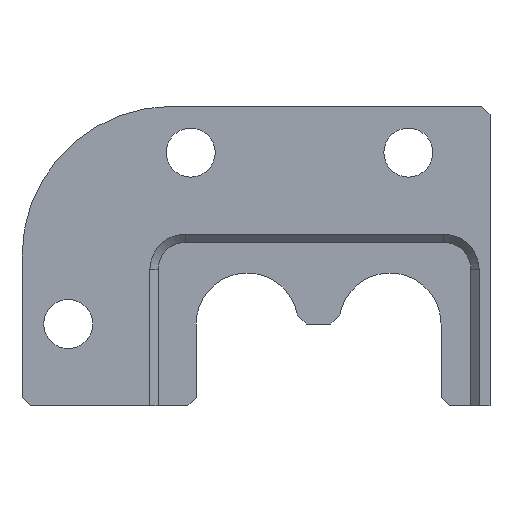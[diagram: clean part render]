
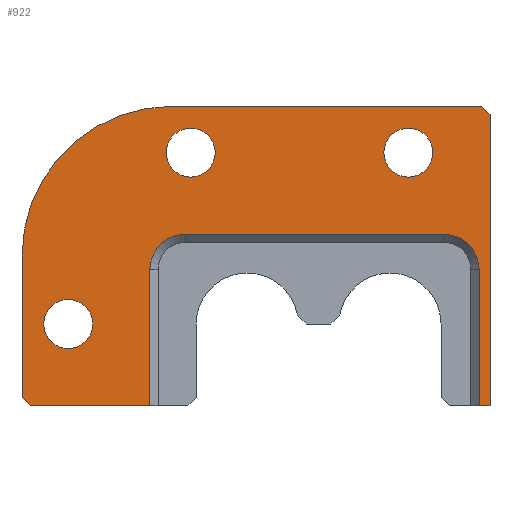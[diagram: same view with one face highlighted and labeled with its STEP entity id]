
A CAD part, front view. The second image highlights one B-rep face of the part: STEP entity #922.
In plain terms, the highlighted planar face has unit normal (0, -1, 0).
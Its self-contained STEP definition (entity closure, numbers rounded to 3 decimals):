
#2 = EDGE_CURVE ( 'NONE', #783, #450, #900, .T. ) ;
#5 = CIRCLE ( 'NONE', #814, 0.9 ) ;
#15 = EDGE_CURVE ( 'NONE', #456, #49, #803, .T. ) ;
#25 = DIRECTION ( 'NONE',  ( 0., 0., -1. ) ) ;
#29 = EDGE_LOOP ( 'NONE', ( #996 ) ) ;
#38 = CARTESIAN_POINT ( 'NONE',  ( 8.6, 0., -5.5 ) ) ;
#42 = FACE_BOUND ( 'NONE', #877, .T. ) ;
#44 = ORIENTED_EDGE ( 'NONE', *, *, #15, .F. ) ;
#49 = VERTEX_POINT ( 'NONE', #690 ) ;
#62 = DIRECTION ( 'NONE',  ( 1., 0., 0. ) ) ;
#68 = CARTESIAN_POINT ( 'NONE',  ( -8.6, 0., 5.5 ) ) ;
#70 = CARTESIAN_POINT ( 'NONE',  ( 8.2, 0., 0. ) ) ;
#73 = DIRECTION ( 'NONE',  ( 0., 0., 1. ) ) ;
#90 = LINE ( 'NONE', #332, #1139 ) ;
#98 = VECTOR ( 'NONE', #170, 1000. ) ;
#105 = DIRECTION ( 'NONE',  ( 0., 1., 0. ) ) ;
#122 = VERTEX_POINT ( 'NONE', #1109 ) ;
#123 = EDGE_CURVE ( 'NONE', #456, #126, #197, .T. ) ;
#124 = AXIS2_PLACEMENT_3D ( 'NONE', #654, #105, #335 ) ;
#125 = CIRCLE ( 'NONE', #353, 0.9 ) ;
#126 = VERTEX_POINT ( 'NONE', #1403 ) ;
#136 = EDGE_LOOP ( 'NONE', ( #862 ) ) ;
#139 = DIRECTION ( 'NONE',  ( 0., 1., 0. ) ) ;
#141 = VERTEX_POINT ( 'NONE', #680 ) ;
#156 = FACE_OUTER_BOUND ( 'NONE', #167, .T. ) ;
#167 = EDGE_LOOP ( 'NONE', ( #235, #1118, #1250, #1292, #770, #1312, #797, #44, #1082, #810, #1145, #1327, #735 ) ) ;
#170 = DIRECTION ( 'NONE',  ( 0.707, 0., -0.707 ) ) ;
#184 = EDGE_CURVE ( 'NONE', #870, #1078, #1051, .T. ) ;
#189 = LINE ( 'NONE', #756, #614 ) ;
#197 = LINE ( 'NONE', #280, #98 ) ;
#200 = AXIS2_PLACEMENT_3D ( 'NONE', #796, #1007, #471 ) ;
#235 = ORIENTED_EDGE ( 'NONE', *, *, #337, .T. ) ;
#244 = CARTESIAN_POINT ( 'NONE',  ( 8.6, 0., -5.5 ) ) ;
#272 = VERTEX_POINT ( 'NONE', #1415 ) ;
#280 = CARTESIAN_POINT ( 'NONE',  ( -8.6, 0., -5.2 ) ) ;
#287 = VECTOR ( 'NONE', #62, 1000. ) ;
#306 = EDGE_CURVE ( 'NONE', #1016, #126, #557, .T. ) ;
#314 = CARTESIAN_POINT ( 'NONE',  ( -8.6, 0., -5.5 ) ) ;
#324 = DIRECTION ( 'NONE',  ( 0., 1., 0. ) ) ;
#332 = CARTESIAN_POINT ( 'NONE',  ( 0., 0., 0.8 ) ) ;
#335 = DIRECTION ( 'NONE',  ( 0., 0., 1. ) ) ;
#337 = EDGE_CURVE ( 'NONE', #1121, #795, #1181, .T. ) ;
#350 = CARTESIAN_POINT ( 'NONE',  ( -8.6, 0., -5.5 ) ) ;
#353 = AXIS2_PLACEMENT_3D ( 'NONE', #542, #435, #1420 ) ;
#378 = EDGE_CURVE ( 'NONE', #783, #1078, #1422, .T. ) ;
#409 = EDGE_CURVE ( 'NONE', #122, #122, #5, .T. ) ;
#414 = DIRECTION ( 'NONE',  ( 0., 1., 0. ) ) ;
#433 = EDGE_CURVE ( 'NONE', #870, #49, #791, .T. ) ;
#435 = DIRECTION ( 'NONE',  ( 0., 1., 0. ) ) ;
#437 = CARTESIAN_POINT ( 'NONE',  ( 8.6, 0., 5.2 ) ) ;
#450 = VERTEX_POINT ( 'NONE', #244 ) ;
#456 = VERTEX_POINT ( 'NONE', #1236 ) ;
#459 = CARTESIAN_POINT ( 'NONE',  ( 8.6, 0., -5.5 ) ) ;
#466 = EDGE_CURVE ( 'NONE', #450, #711, #683, .T. ) ;
#471 = DIRECTION ( 'NONE',  ( 0., 0., 1. ) ) ;
#516 = AXIS2_PLACEMENT_3D ( 'NONE', #983, #414, #1173 ) ;
#542 = CARTESIAN_POINT ( 'NONE',  ( -2.4, 0., 3.8 ) ) ;
#557 = LINE ( 'NONE', #314, #629 ) ;
#566 = CARTESIAN_POINT ( 'NONE',  ( 5.6, 0., 4.7 ) ) ;
#570 = DIRECTION ( 'NONE',  ( 0., 0., 1. ) ) ;
#614 = VECTOR ( 'NONE', #73, 1000. ) ;
#629 = VECTOR ( 'NONE', #859, 1000. ) ;
#654 = CARTESIAN_POINT ( 'NONE',  ( 6.9, 0., -0.5 ) ) ;
#665 = VERTEX_POINT ( 'NONE', #566 ) ;
#668 = EDGE_CURVE ( 'NONE', #141, #141, #125, .T. ) ;
#670 = CARTESIAN_POINT ( 'NONE',  ( 8.2, 0., -0.5 ) ) ;
#673 = DIRECTION ( 'NONE',  ( 0., 1., 0. ) ) ;
#675 = VECTOR ( 'NONE', #1317, 1000. ) ;
#680 = CARTESIAN_POINT ( 'NONE',  ( -2.4, 0., 4.7 ) ) ;
#683 = LINE ( 'NONE', #38, #1045 ) ;
#690 = CARTESIAN_POINT ( 'NONE',  ( -8.6, 0., 0. ) ) ;
#703 = CARTESIAN_POINT ( 'NONE',  ( 6.9, 0., 0.8 ) ) ;
#711 = VERTEX_POINT ( 'NONE', #878 ) ;
#735 = ORIENTED_EDGE ( 'NONE', *, *, #1389, .T. ) ;
#756 = CARTESIAN_POINT ( 'NONE',  ( -3.9, 0., 0. ) ) ;
#770 = ORIENTED_EDGE ( 'NONE', *, *, #378, .T. ) ;
#783 = VERTEX_POINT ( 'NONE', #1124 ) ;
#791 = CIRCLE ( 'NONE', #200, 5.5 ) ;
#795 = VERTEX_POINT ( 'NONE', #670 ) ;
#796 = CARTESIAN_POINT ( 'NONE',  ( -3.1, 0., 0. ) ) ;
#797 = ORIENTED_EDGE ( 'NONE', *, *, #433, .T. ) ;
#803 = LINE ( 'NONE', #350, #837 ) ;
#809 = EDGE_CURVE ( 'NONE', #272, #845, #1255, .T. ) ;
#810 = ORIENTED_EDGE ( 'NONE', *, *, #306, .F. ) ;
#813 = CARTESIAN_POINT ( 'NONE',  ( 0., 0., 0. ) ) ;
#814 = AXIS2_PLACEMENT_3D ( 'NONE', #1359, #673, #1132 ) ;
#837 = VECTOR ( 'NONE', #570, 1000. ) ;
#845 = VERTEX_POINT ( 'NONE', #1119 ) ;
#859 = DIRECTION ( 'NONE',  ( -1., 0., 0. ) ) ;
#862 = ORIENTED_EDGE ( 'NONE', *, *, #1350, .T. ) ;
#870 = VERTEX_POINT ( 'NONE', #896 ) ;
#877 = EDGE_LOOP ( 'NONE', ( #1035 ) ) ;
#878 = CARTESIAN_POINT ( 'NONE',  ( 8.2, 0., -5.5 ) ) ;
#896 = CARTESIAN_POINT ( 'NONE',  ( -3.1, 0., 5.5 ) ) ;
#900 = LINE ( 'NONE', #459, #1276 ) ;
#910 = VECTOR ( 'NONE', #1286, 1000. ) ;
#911 = CIRCLE ( 'NONE', #516, 0.9 ) ;
#921 = PLANE ( 'NONE',  #1186 ) ;
#922 = ADVANCED_FACE ( 'NONE', ( #1030, #42, #1137, #156 ), #921, .F. ) ;
#928 = LINE ( 'NONE', #70, #910 ) ;
#983 = CARTESIAN_POINT ( 'NONE',  ( 5.6, 0., 3.8 ) ) ;
#996 = ORIENTED_EDGE ( 'NONE', *, *, #409, .T. ) ;
#1003 = CARTESIAN_POINT ( 'NONE',  ( -2.6, 0., -0.5 ) ) ;
#1005 = EDGE_CURVE ( 'NONE', #795, #711, #928, .T. ) ;
#1007 = DIRECTION ( 'NONE',  ( 0., -1., 0. ) ) ;
#1016 = VERTEX_POINT ( 'NONE', #1136 ) ;
#1026 = CARTESIAN_POINT ( 'NONE',  ( 8.3, 0., 5.5 ) ) ;
#1030 = FACE_BOUND ( 'NONE', #29, .T. ) ;
#1035 = ORIENTED_EDGE ( 'NONE', *, *, #668, .T. ) ;
#1045 = VECTOR ( 'NONE', #1122, 1000. ) ;
#1051 = LINE ( 'NONE', #68, #287 ) ;
#1078 = VERTEX_POINT ( 'NONE', #1026 ) ;
#1082 = ORIENTED_EDGE ( 'NONE', *, *, #123, .T. ) ;
#1086 = DIRECTION ( 'NONE',  ( 0., 0., 1. ) ) ;
#1108 = DIRECTION ( 'NONE',  ( 0., 0., 1. ) ) ;
#1109 = CARTESIAN_POINT ( 'NONE',  ( -6.9, 0., -1.6 ) ) ;
#1118 = ORIENTED_EDGE ( 'NONE', *, *, #1005, .T. ) ;
#1119 = CARTESIAN_POINT ( 'NONE',  ( -2.6, 0., 0.8 ) ) ;
#1121 = VERTEX_POINT ( 'NONE', #703 ) ;
#1122 = DIRECTION ( 'NONE',  ( -1., 0., 0. ) ) ;
#1124 = CARTESIAN_POINT ( 'NONE',  ( 8.6, 0., 5.2 ) ) ;
#1125 = DIRECTION ( 'NONE',  ( 1., 0., 0. ) ) ;
#1132 = DIRECTION ( 'NONE',  ( 0., 0., 1. ) ) ;
#1136 = CARTESIAN_POINT ( 'NONE',  ( -3.9, 0., -5.5 ) ) ;
#1137 = FACE_BOUND ( 'NONE', #136, .T. ) ;
#1139 = VECTOR ( 'NONE', #1125, 1000. ) ;
#1145 = ORIENTED_EDGE ( 'NONE', *, *, #1376, .T. ) ;
#1173 = DIRECTION ( 'NONE',  ( 0., 0., 1. ) ) ;
#1181 = CIRCLE ( 'NONE', #124, 1.3 ) ;
#1186 = AXIS2_PLACEMENT_3D ( 'NONE', #813, #324, #1086 ) ;
#1231 = AXIS2_PLACEMENT_3D ( 'NONE', #1003, #139, #1108 ) ;
#1236 = CARTESIAN_POINT ( 'NONE',  ( -8.6, 0., -5.2 ) ) ;
#1250 = ORIENTED_EDGE ( 'NONE', *, *, #466, .F. ) ;
#1255 = CIRCLE ( 'NONE', #1231, 1.3 ) ;
#1276 = VECTOR ( 'NONE', #25, 1000. ) ;
#1286 = DIRECTION ( 'NONE',  ( 0., 0., -1. ) ) ;
#1292 = ORIENTED_EDGE ( 'NONE', *, *, #2, .F. ) ;
#1312 = ORIENTED_EDGE ( 'NONE', *, *, #184, .F. ) ;
#1317 = DIRECTION ( 'NONE',  ( -0.707, 0., 0.707 ) ) ;
#1327 = ORIENTED_EDGE ( 'NONE', *, *, #809, .T. ) ;
#1350 = EDGE_CURVE ( 'NONE', #665, #665, #911, .T. ) ;
#1359 = CARTESIAN_POINT ( 'NONE',  ( -6.9, 0., -2.5 ) ) ;
#1376 = EDGE_CURVE ( 'NONE', #1016, #272, #189, .T. ) ;
#1389 = EDGE_CURVE ( 'NONE', #845, #1121, #90, .T. ) ;
#1403 = CARTESIAN_POINT ( 'NONE',  ( -8.3, 0., -5.5 ) ) ;
#1415 = CARTESIAN_POINT ( 'NONE',  ( -3.9, 0., -0.5 ) ) ;
#1420 = DIRECTION ( 'NONE',  ( 0., 0., 1. ) ) ;
#1422 = LINE ( 'NONE', #437, #675 ) ;
